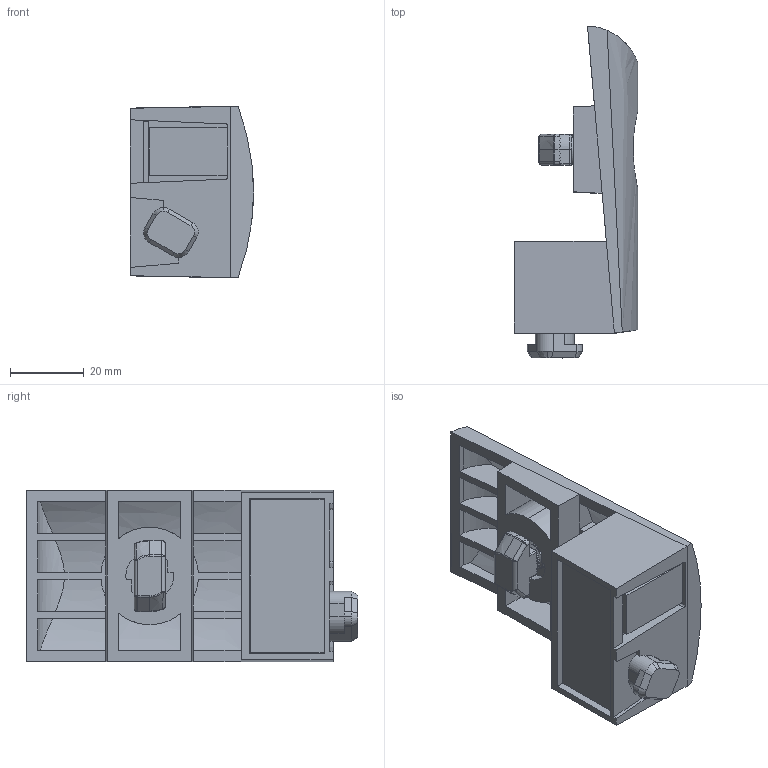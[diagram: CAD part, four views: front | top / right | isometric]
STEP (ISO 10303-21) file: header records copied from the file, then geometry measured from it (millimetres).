
FILE_DESCRIPTION (( 'STEP AP214' ), '1' );
FILE_NAME ('067RCB1BRU005.STEP', '2024-09-23T11:19:09', ( '' ), ( '' ), 'SwSTEP 2.0', 'SolidWorks 2023', '' );
FILE_SCHEMA (( 'AUTOMOTIVE_DESIGN' ));
Length unit declared in the file: millimetre
Products named in the file (8): 4DIN125AM8M; 096HK1030M0820; 067RCB1BRU005; 067RCB1BRU005(2); 067RCB1BRU005(1); 067RCB1SES006; 4DIN934M08MS01; 067RCB1BRS003
Assembly tree (7 placements, depth 4):
  067RCB1BRU005
    067RCB1BRU005(2)
      067RCB1BRU005(1)
        067RCB1BRS003
        067RCB1SES006
        4DIN125AM8M
        096HK1030M0820
        4DIN934M08MS01
Bounding box: 33.5 x 90.2 x 46.5 mm (x, y, z)
Volume: 37264.6 mm3; surface area: 26005.3 mm2
Topology: 5 solids, 5 shells, 336 faces, 867 edges, 535 vertices
Faces by surface type: plane 171, cylinder 88, bspline 51, cone 26
Entity records: 15563 total; most frequent: CARTESIAN_POINT 7917, ORIENTED_EDGE 1714, DIRECTION 1330, EDGE_CURVE 857, VERTEX_POINT 535, VECTOR 462, LINE 462, AXIS2_PLACEMENT_3D 434
